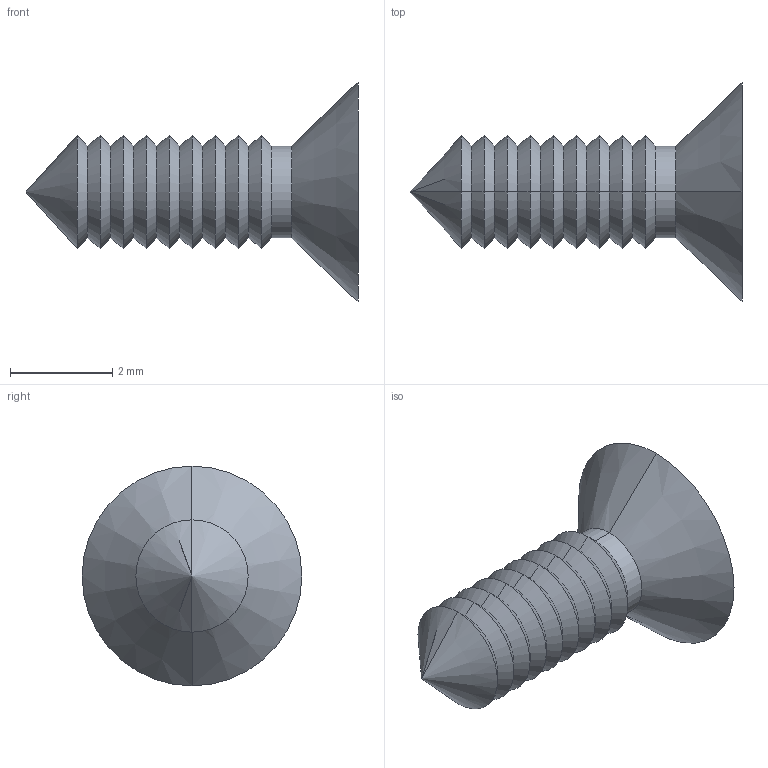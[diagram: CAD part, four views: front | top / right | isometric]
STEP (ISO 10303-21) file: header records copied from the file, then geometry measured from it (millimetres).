
FILE_DESCRIPTION (( 'STEP AP214' ), '1' );
FILE_NAME ('Cargol 2,2x13 DIN 7982 PP26.STEP', '2018-07-02T07:49:07', ( 'aaa' ), ( '' ), 'SwSTEP 2.0', 'SolidWorks 2013', '' );
FILE_SCHEMA (( 'AUTOMOTIVE_DESIGN' ));
Length unit declared in the file: millimetre
Products named in the file (1): Cargol 2,2x13 DIN 7982 PP26
Bounding box: 6.5 x 4.3 x 4.3 mm (x, y, z)
Volume: 23.8 mm3; surface area: 73.8 mm2
Topology: 1 solids, 1 shells, 54 faces, 118 edges, 65 vertices
Faces by surface type: cone 38, plane 14, cylinder 2
Entity records: 1458 total; most frequent: DIRECTION 266, CARTESIAN_POINT 236, ORIENTED_EDGE 232, EDGE_CURVE 116, AXIS2_PLACEMENT_3D 95, VECTOR 76, LINE 76, VERTEX_POINT 65
